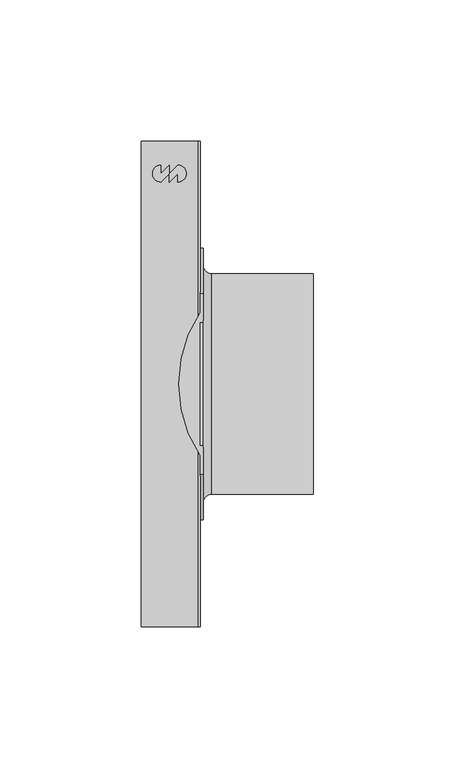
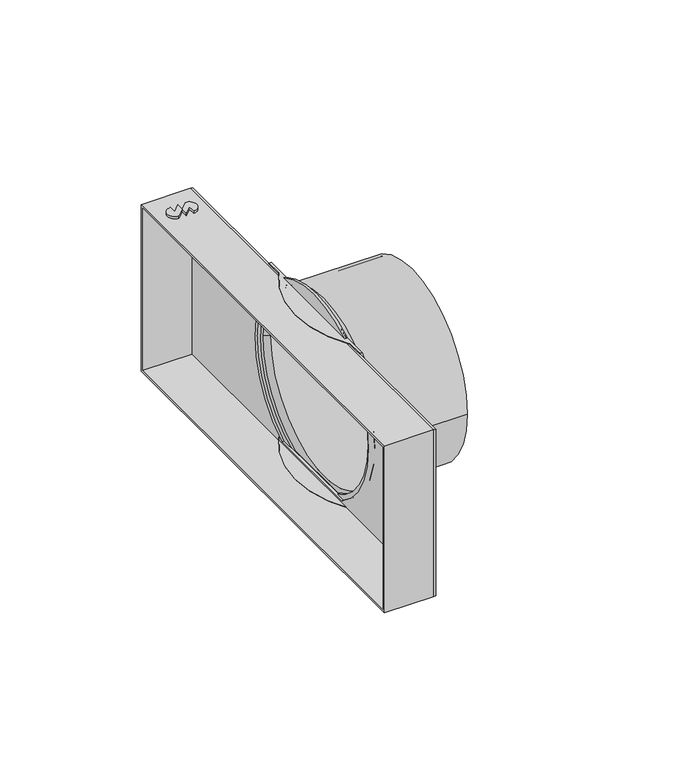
"""IFC4 building model written with IfcOpenShell, lengths in millimetres: duct fitting geometry, NLRS_57_DUF_UN_instortkanaal-rechthoekig-einddeksel-met-stuts_LT_velu : Deksel met stuks."""

from ifc_helpers import new_model, si_unit, point, frame, frame_2d, origin, origin_2d, place, context, project, spatial, polyline, circle_curve, ellipse_curve, trimmed, segment, composite_curve, outline, extrude, source, transform, mapped, element, save
from ifc_brep_helpers import plane_surface, cylinder_surface, revolved_surface, advanced_brep


def duct_fitting_184fc7e4(model_context):
    return source(origin(), model_context, "Body", "SolidModel", [
        advanced_brep(
        [(41.0, 39.0, 0.0), (41.0, -39.0, 0.0), (5.0, -39.0, 0.0), (5.0, 39.0, 0.0), (2.0, -42.0, 0.0), (2.0, -21.6333077, -36.0), (2.0, 21.6333077, -36.0), (2.0, 42.0, 0.0), (1.0, -21.6333077, -36.0), (1.0, 21.6333077, -36.0), (5.0, -38.0, 0.0), (5.0, 38.0, 0.0), (2.0, 39.3542487, 0.0), (2.0, -39.3542487, 0.0), (41.0, -38.0, 0.0), (41.0, 38.0, 0.0), (2.0, 21.6333077, 36.0), (2.0, -21.6333077, 36.0), (1.0, 21.6333077, 36.0), (1.0, -21.6333077, 36.0), (2.0, -15.0, -35.0), (2.0, -15.0, 35.0), (2.0, 15.0, 35.0), (2.0, 15.0, -35.0), (2.0, -32.1247568, 36.0), (2.0, -32.1247568, -36.0), (2.0, 32.1247568, -36.0), (2.0, 32.1247568, 36.0), (1.0, 32.1247568, 36.0), (1.0, 32.1247568, -36.0), (1.0, 25.2388589, -36.0), (1.0, 25.2388589, -35.0), (1.0, 15.0, -35.0), (1.0, 15.0, 35.0), (1.0, 25.2388589, 35.0), (1.0, 25.2388589, 36.0), (1.0, -32.1247568, -36.0), (1.0, -32.1247568, 36.0), (1.0, -25.2388589, 36.0), (1.0, -25.2388589, 35.0), (1.0, -15.0, 35.0), (1.0, -15.0, -35.0), (1.0, -25.2388589, -35.0), (1.0, -25.2388589, -36.0)],
        [
            (0, 1, circle_curve(frame((41.0, 0.0, 0.0), z_axis=(-1.0, 0.0, 0.0), x_axis=(0.0, -1.0, 0.0)), 39.0)),
            (1, 2),
            (2, 3, circle_curve(frame((5.0, 0.0, 0.0), z_axis=(1.0, 0.0, 0.0), x_axis=(0.0, -1.0, 0.0)), 39.0)),
            (3, 0),
            (2, 4, circle_curve(frame((5.0, -42.0, 0.0), z_axis=(0.0, 0.0, 1.0), x_axis=(1.0, 0.0, 0.0)), 3.0)),
            (4, 5, circle_curve(frame((2.0, 0.0, 0.0), z_axis=(1.0, 0.0, 0.0), x_axis=(0.0, -1.0, 0.0)), 42.0)),
            (5, 6, circle_curve(frame((2.0, 0.0, 0.0), z_axis=(1.0, 0.0, 0.0), x_axis=(0.0, -1.0, 0.0)), 42.0)),
            (6, 7, circle_curve(frame((2.0, 0.0, 0.0), z_axis=(1.0, 0.0, 0.0), x_axis=(0.0, -1.0, 0.0)), 42.0)),
            (7, 3, circle_curve(frame((5.0, 42.0, 0.0), z_axis=(0.0, 0.0, 1.0), x_axis=(1.0, 0.0, 0.0)), 3.0)),
            (5, 8),
            (8, 9, circle_curve(frame((1.0, 0.0, 0.0), z_axis=(1.0, 0.0, 0.0), x_axis=(0.0, -1.0, 0.0)), 42.0)),
            (9, 6),
            (10, 11, circle_curve(frame((5.0, 0.0, 0.0), z_axis=(1.0, 0.0, 0.0), x_axis=(0.0, -1.0, 0.0)), 38.0)),
            (11, 12, circle_curve(frame((5.0, 42.0, 0.0), z_axis=(0.0, 0.0, -1.0), x_axis=(1.0, 0.0, 0.0)), 4.0)),
            (12, 13, circle_curve(frame((2.0, 0.0, 0.0), z_axis=(-1.0, 0.0, 0.0), x_axis=(0.0, -1.0, 0.0)), 39.3542487)),
            (13, 10, circle_curve(frame((5.0, -42.0, 0.0), z_axis=(0.0, 0.0, -1.0), x_axis=(1.0, 0.0, 0.0)), 4.0)),
            (10, 14),
            (14, 15, circle_curve(frame((41.0, 0.0, 0.0), z_axis=(1.0, 0.0, 0.0), x_axis=(0.0, -1.0, 0.0)), 38.0)),
            (15, 11),
            (1, 0, circle_curve(frame((41.0, 0.0, 0.0), z_axis=(-1.0, 0.0, 0.0), x_axis=(0.0, 1.0, 0.0)), 39.0)),
            (3, 2, circle_curve(frame((5.0, 0.0, 0.0), z_axis=(1.0, 0.0, 0.0), x_axis=(0.0, 1.0, 0.0)), 39.0)),
            (7, 16, circle_curve(frame((2.0, 0.0, 0.0), z_axis=(1.0, 0.0, 0.0), x_axis=(0.0, 1.0, 0.0)), 42.0)),
            (16, 17, circle_curve(frame((2.0, 0.0, 0.0), z_axis=(1.0, 0.0, 0.0), x_axis=(0.0, 1.0, 0.0)), 42.0)),
            (17, 4, circle_curve(frame((2.0, 0.0, 0.0), z_axis=(1.0, 0.0, 0.0), x_axis=(0.0, 1.0, 0.0)), 42.0)),
            (16, 18),
            (18, 19, circle_curve(frame((1.0, 0.0, 0.0), z_axis=(1.0, 0.0, 0.0), x_axis=(0.0, 1.0, 0.0)), 42.0)),
            (19, 17),
            (11, 10, circle_curve(frame((5.0, 0.0, 0.0), z_axis=(1.0, 0.0, 0.0), x_axis=(0.0, 1.0, 0.0)), 38.0)),
            (13, 12, circle_curve(frame((2.0, 0.0, 0.0), z_axis=(-1.0, 0.0, 0.0), x_axis=(0.0, 1.0, 0.0)), 39.3542487)),
            (15, 14, circle_curve(frame((41.0, 0.0, 0.0), z_axis=(1.0, 0.0, 0.0), x_axis=(0.0, 1.0, 0.0)), 38.0)),
            (20, 21, circle_curve(frame((2.0, 0.0, 0.0), z_axis=(-1.0, 0.0, 0.0), x_axis=(0.0, 1.0, 0.0)), 38.0788655)),
            (21, 22),
            (22, 23, circle_curve(frame((2.0, 0.0, 0.0), z_axis=(-1.0, 0.0, 0.0), x_axis=(0.0, 1.0, 0.0)), 38.0788655)),
            (23, 20),
            (17, 24),
            (24, 25, circle_curve(frame((2.0, 0.0, 0.0), z_axis=(1.0, 0.0, 0.0), x_axis=(0.0, 1.0, 0.0)), 48.2493523)),
            (25, 5),
            (6, 26),
            (26, 27, circle_curve(frame((2.0, 0.0, 0.0), z_axis=(1.0, 0.0, 0.0), x_axis=(0.0, 1.0, 0.0)), 48.2493523)),
            (27, 16),
            (8, 9),
            (18, 19),
            (28, 29, circle_curve(frame((1.0, 0.0, 0.0), z_axis=(-1.0, 0.0, 0.0), x_axis=(0.0, 1.0, 0.0)), 48.2493523)),
            (29, 30),
            (30, 31),
            (31, 32),
            (32, 33, circle_curve(frame((1.0, 0.0, 0.0), z_axis=(1.0, 0.0, 0.0), x_axis=(0.0, 1.0, 0.0)), 38.0788655)),
            (33, 34),
            (34, 35),
            (35, 28),
            (36, 37, circle_curve(frame((1.0, 0.0, 0.0), z_axis=(-1.0, 0.0, 0.0), x_axis=(0.0, 1.0, 0.0)), 48.2493523)),
            (37, 38),
            (38, 39),
            (39, 40),
            (40, 41, circle_curve(frame((1.0, 0.0, 0.0), z_axis=(1.0, 0.0, 0.0), x_axis=(0.0, 1.0, 0.0)), 38.0788655)),
            (41, 42),
            (42, 43),
            (43, 36),
            (24, 37),
            (36, 25),
            (43, 30, circle_curve(frame((38.1624837, 0.0, -36.0), z_axis=(0.0, 0.0, -1.0), x_axis=(0.0, -1.0, 0.0)), 44.9227136)),
            (29, 26),
            (28, 27),
            (35, 38, circle_curve(frame((38.1624837, 0.0, 36.0), z_axis=(0.0, 0.0, 1.0), x_axis=(0.0, -1.0, 0.0)), 44.9227136)),
            (20, 41),
            (40, 21),
            (39, 34, circle_curve(frame((38.1624837, 0.0, 35.0), z_axis=(0.0, 0.0, -1.0), x_axis=(0.0, -1.0, 0.0)), 44.9227136)),
            (33, 22),
            (32, 23),
            (31, 42, circle_curve(frame((38.1624837, 0.0, -35.0), z_axis=(0.0, 0.0, 1.0), x_axis=(0.0, -1.0, 0.0)), 44.9227136)),
        ],
        [
            cylinder_surface(frame((1.0, 0.0, 0.0), z_axis=(1.0, 0.0, 0.0), x_axis=(0.0, -1.0, 0.0)), 39.0),
            revolved_surface(trimmed(ellipse_curve(frame((5.0, -42.0, 0.0), z_axis=(0.0, 0.0, -1.0), x_axis=(1.0, 0.0, 0.0)), 3.0, 3.0), [point((2.0, -42.0, 0.0))], [point((5.0, -39.0, 0.0))], True, "CARTESIAN"), (1.0, 0.0, 0.0), (1.0, 0.0, 0.0)),
            cylinder_surface(frame((1.0, 0.0, 0.0), z_axis=(1.0, 0.0, 0.0), x_axis=(0.0, -1.0, 0.0)), 42.0),
            revolved_surface(trimmed(ellipse_curve(frame((5.0, -42.0, 0.0), z_axis=(0.0, 0.0, 1.0), x_axis=(1.0, 0.0, 0.0)), 4.0, 4.0), [point((5.0, -38.0, 0.0))], [point((1.0, -42.0, 0.0))], True, "CARTESIAN"), (1.0, 0.0, 0.0), (1.0, 0.0, 0.0)),
            revolved_surface(polyline([(41.0, -38.0, 0.0), (5.0, -38.0, 0.0)]), (1.0, 0.0, 0.0), (1.0, 0.0, 0.0)),
            cylinder_surface(frame((1.0, 0.0, 0.0), z_axis=(1.0, 0.0, 0.0), x_axis=(0.0, 1.0, 0.0)), 39.0),
            revolved_surface(trimmed(ellipse_curve(frame((5.0, 42.0, 0.0), z_axis=(0.0, 0.0, 1.0), x_axis=(1.0, 0.0, 0.0)), 3.0, 3.0), [point((2.0, 42.0, 0.0))], [point((5.0, 39.0, 0.0))], True, "CARTESIAN"), (1.0, 0.0, 0.0), (1.0, 0.0, 0.0)),
            cylinder_surface(frame((1.0, 0.0, 0.0), z_axis=(1.0, 0.0, 0.0), x_axis=(0.0, 1.0, 0.0)), 42.0),
            revolved_surface(trimmed(ellipse_curve(frame((5.0, 42.0, 0.0), z_axis=(0.0, 0.0, -1.0), x_axis=(1.0, 0.0, 0.0)), 4.0, 4.0), [point((5.0, 38.0, 0.0))], [point((1.0, 42.0, 0.0))], True, "CARTESIAN"), (1.0, 0.0, 0.0), (1.0, 0.0, 0.0)),
            revolved_surface(polyline([(41.0, 38.0, 0.0), (5.0, 38.0, 0.0)]), (1.0, 0.0, 0.0), (1.0, 0.0, 0.0)),
            plane_surface(frame((41.0, 0.0, 0.0), z_axis=(1.0, 0.0, 0.0), x_axis=(0.0, 1.0, 0.0))),
            plane_surface(frame((2.0, 42.0, 0.0), z_axis=(1.0, 0.0, 0.0), x_axis=(0.0, 0.0, 1.0))),
            plane_surface(frame((1.0, 42.0, 0.0), z_axis=(-1.0, 0.0, 0.0), x_axis=(0.0, 0.0, -1.0))),
            cylinder_surface(frame((1.0, 0.0, 0.0), z_axis=(1.0, 0.0, 0.0), x_axis=(0.0, 1.0, 0.0)), 48.2493523),
            plane_surface(frame((2.0, 21.6333077, -36.0), z_axis=(0.0, 0.0, -1.0), x_axis=(-1.0, 0.0, 0.0))),
            plane_surface(frame((2.0, 32.1247568, 36.0), z_axis=(0.0, 0.0, 1.0), x_axis=(-1.0, 0.0, 0.0))),
            revolved_surface(polyline([(1.0, 38.0788655, 0.0), (2.0, 38.0788655, 0.0)]), (1.0, 0.0, 0.0), (-1.0, 0.0, 0.0)),
            plane_surface(frame((2.0, -15.0, 35.0), z_axis=(0.0, 0.0, -1.0), x_axis=(-1.0, 0.0, 0.0))),
            plane_surface(frame((2.0, 15.0, -35.0), z_axis=(0.0, 0.0, 1.0), x_axis=(-1.0, 0.0, 0.0))),
            cylinder_surface(frame((38.1624837, 0.0, 35.0), z_axis=(0.0, 0.0, 1.0), x_axis=(0.0, -1.0, 0.0)), 44.9227136),
            cylinder_surface(frame((38.1624837, 0.0, -36.0), z_axis=(0.0, 0.0, 1.0), x_axis=(0.0, -1.0, 0.0)), 44.9227136),
        ],
        [
            (0, [[1, 2, 3, 4]]),
            (1, [[-3, 5, 6, 7, 8, 9]]),
            (2, [[-7, 10, 11, 12]]),
            (3, [[13, 14, 15, 16]]),
            (4, [[-13, 17, 18, 19]]),
            (5, [[-2, 20, -4, 21]]),
            (6, [[-5, -21, -9, 22, 23, 24]]),
            (7, [[-23, 25, 26, 27]]),
            (8, [[28, -16, 29, -14]]),
            (9, [[-17, -28, -19, 30]]),
            (10, [[-1, -20], [-18, -30]]),
            (11, [[-15, -29], [31, 32, 33, 34]]),
            (11, [[35, 36, 37, -6, -24]]),
            (11, [[38, 39, 40, -22, -8]]),
            (12, [[-11, 41]]),
            (12, [[-26, 42]]),
            (12, [[43, 44, 45, 46, 47, 48, 49, 50]]),
            (12, [[51, 52, 53, 54, 55, 56, 57, 58]]),
            (13, [[-36, 59, -51, 60]]),
            (14, [[-38, -12, -41, -10, -37, -60, -58, 61, -44, 62]]),
            (13, [[-39, -62, -43, 63]]),
            (15, [[-35, -27, -42, -25, -40, -63, -50, 64, -52, -59]]),
            (16, [[-31, 65, -55, 66]]),
            (17, [[-32, -66, -54, 67, -48, 68]]),
            (16, [[-33, -68, -47, 69]]),
            (18, [[-34, -69, -46, 70, -56, -65]]),
            (19, [[-64, -49, -67, -53]]),
            (20, [[-70, -45, -61, -57]]),
        ],
    ),
        extrude(outline(composite_curve([segment(polyline([(-7.0, 71.5), (-7.0, 74.5), (-10.0, 71.5), (-10.0, 74.5), (-7.0, 77.5)]), True, "CONTINUOUS"), segment(trimmed(circle_curve(frame_2d((-7.0, 74.5)), 3.0), [point((-7.0, 77.5))], [point((-7.0, 71.5))], False, "CARTESIAN"), True, "CONTINUOUS")], self_intersect=False)), frame((0.0, 0.0, -37.5), z_axis=(0.0, 0.0, 1.0), x_axis=(1.0, 0.0, 0.0)), (0.0, 0.0, 1.0), 1.0),
        extrude(outline(composite_curve([segment(polyline([(-13.0, 77.5), (-13.0, 74.5), (-10.0, 77.5), (-10.0, 74.5), (-13.0, 71.5)]), True, "CONTINUOUS"), segment(trimmed(circle_curve(frame_2d((-13.0, 74.5)), 3.0), [point((-13.0, 71.5))], [point((-13.0, 77.5))], False, "CARTESIAN"), True, "CONTINUOUS")], self_intersect=False)), frame((0.0, 0.0, -37.5), z_axis=(0.0, 0.0, 1.0), x_axis=(1.0, 0.0, 0.0)), (0.0, 0.0, 1.0), 1.0),
        extrude(outline(composite_curve([segment(polyline([(-13.0, 77.5), (-13.0, 74.5), (-10.0, 77.5), (-10.0, 74.5), (-13.0, 71.5)]), True, "CONTINUOUS"), segment(trimmed(circle_curve(frame_2d((-13.0, 74.5)), 3.0), [point((-13.0, 71.5))], [point((-13.0, 77.5))], False, "CARTESIAN"), True, "CONTINUOUS")], self_intersect=False)), frame((0.0, 0.0, 36.5), z_axis=(0.0, 0.0, 1.0), x_axis=(1.0, 0.0, 0.0)), (0.0, 0.0, 1.0), 1.0),
        extrude(outline(composite_curve([segment(polyline([(-7.0, 71.5), (-7.0, 74.5), (-10.0, 71.5), (-10.0, 74.5), (-7.0, 77.5)]), True, "CONTINUOUS"), segment(trimmed(circle_curve(frame_2d((-7.0, 74.5)), 3.0), [point((-7.0, 77.5))], [point((-7.0, 71.5))], False, "CARTESIAN"), True, "CONTINUOUS")], self_intersect=False)), frame((0.0, 0.0, 36.5), z_axis=(0.0, 0.0, 1.0), x_axis=(1.0, 0.0, 0.0)), (0.0, 0.0, 1.0), 1.0),
        extrude(outline(polyline([(86.0, -36.0), (-86.0, -36.0), (-86.0, 36.0), (86.0, 36.0), (86.0, -36.0)]), holes=[polyline([(85.0, 35.0), (-85.0, 35.0), (-85.0, -35.0), (85.0, -35.0), (85.0, 35.0)])]), frame((-20.0, 0.0, 0.0), z_axis=(1.0, 0.0, 0.0), x_axis=(0.0, 1.0, 0.0)), (0.0, 0.0, 1.0), 20.0),
        extrude(outline(polyline([(-86.0, 36.0), (86.0, 36.0), (86.0, -36.0), (-86.0, -36.0), (-86.0, 36.0)]), holes=[composite_curve([segment(trimmed(circle_curve(origin_2d(), 40.0), [point((-21.0713075, 34.0))], [point((-21.0713075, -34.0))], True, "CARTESIAN"), True, "CONTINUOUS"), segment(polyline([(-21.0713075, -34.0), (21.0713075, -34.0)]), True, "CONTINUOUS"), segment(trimmed(circle_curve(origin_2d(), 40.0), [point((21.0713075, -34.0))], [point((21.0713075, 34.0))], True, "CARTESIAN"), True, "CONTINUOUS"), segment(polyline([(21.0713075, 34.0), (-21.0713075, 34.0)]), True, "CONTINUOUS")], self_intersect=False)]), frame((0.0, 0.0, 0.0), z_axis=(1.0, 0.0, 0.0), x_axis=(0.0, 1.0, 0.0)), (0.0, 0.0, 1.0), 1.0),
    ])


if __name__ == "__main__":
    model = new_model("IFC4")
    model_context = context("Model", 3, world=origin())
    ifc_project = project(units=[si_unit("LENGTHUNIT", "METRE", prefix="MILLI")], contexts=[model_context])
    site = spatial("IfcSite", under=ifc_project)
    building = spatial("IfcBuilding", under=site)
    placement = place(None, origin())
    duct_fitting_shape = duct_fitting_184fc7e4(model_context)
    element("IfcDuctFitting", 1, ObjectType="NLRS_57_DUF_UN_instortkanaal-rechthoekig-einddeksel-met-stuts_LT_velu : Deksel met stuks", at=placement, inside=building, context=model_context, shape_type="MappedRepresentation", body=[
        mapped(duct_fitting_shape, transform((0.0, 0.0, 0.0), x_axis=(1.0, 0.0, 0.0), y_axis=(0.0, 1.0, 0.0), z_axis=(0.0, 0.0, 1.0))),
    ])
    save(model, "model.ifc")
